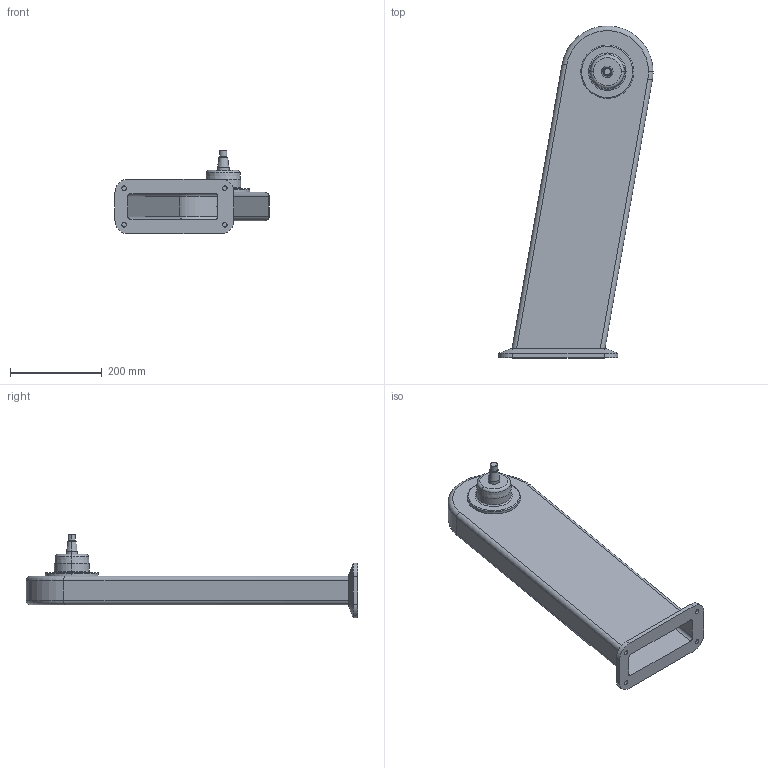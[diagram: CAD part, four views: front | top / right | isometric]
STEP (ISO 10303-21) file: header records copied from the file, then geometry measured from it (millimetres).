
FILE_DESCRIPTION (( 'STEP AP214' ), '1' );
FILE_NAME ('WP800_H625_+10.STEP', '2014-06-26T12:17:35', ( '' ), ( '' ), 'SwSTEP 2.0', 'SolidWorks 2014', '' );
FILE_SCHEMA (( 'AUTOMOTIVE_DESIGN' ));
Length unit declared in the file: millimetre
Products named in the file (1): WP800_H625_+10
Bounding box: 336.68 x 725 x 183.29 mm (x, y, z)
Volume: 1661170 mm3; surface area: 779512.3 mm2
Topology: 1 solids, 1 shells, 92 faces, 202 edges, 122 vertices
Faces by surface type: cylinder 36, plane 26, cone 16, torus 14
Entity records: 2564 total; most frequent: DIRECTION 484, CARTESIAN_POINT 441, ORIENTED_EDGE 404, EDGE_CURVE 202, AXIS2_PLACEMENT_3D 197, VERTEX_POINT 122, CIRCLE 104, EDGE_LOOP 104
